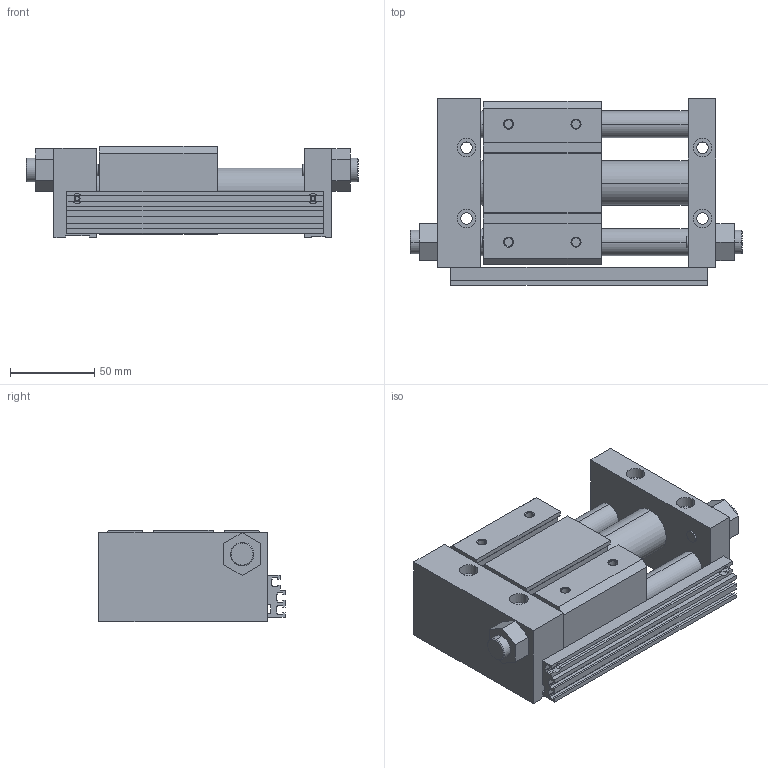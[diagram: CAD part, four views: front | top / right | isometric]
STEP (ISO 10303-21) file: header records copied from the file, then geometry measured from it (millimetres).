
FILE_DESCRIPTION((''),'2;1');
FILE_NAME('C:\Documents and Settings\Administrator\桌面\GYS\GYS25\GYSR25X50.stp','2012-03-06T11:01:39',('Administrator'),(''),'Autodesk Inventor 8','Autodesk Inventor 8','');
FILE_SCHEMA(('AUTOMOTIVE_DESIGN { 1 0 10303 214 1 1 1 1 }'));
Length unit declared in the file: millimetre
Products named in the file (3): GYSR25X50; GYS25X50; GYS25160X50
Assembly tree (2 placements, depth 2):
  GYSR25X50
    GYS25X50
    GYS25160X50
Bounding box: 197 x 110.5 x 54 mm (x, y, z)
Volume: 614443.2 mm3; surface area: 101136.6 mm2
Topology: 2 solids, 2 shells, 276 faces, 718 edges, 468 vertices
Faces by surface type: plane 154, cylinder 80, cone 32, bspline 10
Entity records: 8662 total; most frequent: CARTESIAN_POINT 1609, DIRECTION 1476, ORIENTED_EDGE 1436, EDGE_CURVE 718, VECTOR 502, LINE 502, AXIS2_PLACEMENT_3D 487, VERTEX_POINT 468
